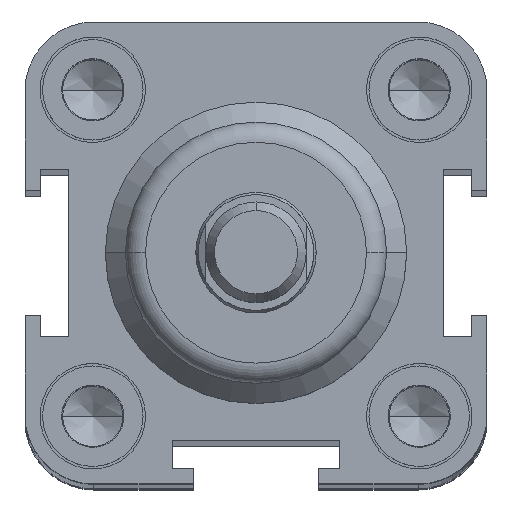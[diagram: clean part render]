
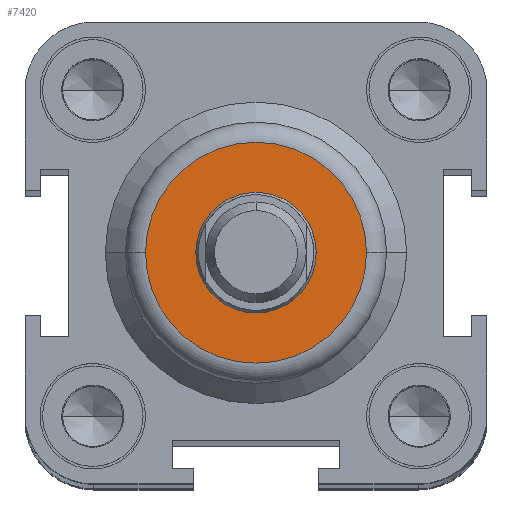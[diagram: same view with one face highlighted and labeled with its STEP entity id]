
A CAD part, top view. The second image highlights one B-rep face of the part: STEP entity #7420.
In plain terms, the highlighted planar face has unit normal (0, 0, 1).
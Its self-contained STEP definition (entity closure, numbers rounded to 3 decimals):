
#1472=CARTESIAN_POINT('',(-11.,0.0,188.0));
#1473=VERTEX_POINT('',#1472);
#1481=CARTESIAN_POINT('',(11.,0.,188.0));
#1482=VERTEX_POINT('',#1481);
#1483=CARTESIAN_POINT('',(0.0,0.0,188.0));
#1484=DIRECTION('',(0.0,0.0,-1.0));
#1485=DIRECTION('',(-1.0,0.0,0.0));
#1486=AXIS2_PLACEMENT_3D('',#1483,#1484,#1485);
#1487=CIRCLE('',#1486,11.);
#1488=EDGE_CURVE('',#1473,#1482,#1487,.T.);
#1593=CARTESIAN_POINT('',(6.,0.0,188.0));
#1594=VERTEX_POINT('',#1593);
#1610=CARTESIAN_POINT('',(-6.,0.,188.0));
#1611=VERTEX_POINT('',#1610);
#1618=CARTESIAN_POINT('',(0.0,0.0,188.0));
#1619=DIRECTION('',(0.0,0.0,-1.0));
#1620=DIRECTION('',(1.0,0.0,0.0));
#1621=AXIS2_PLACEMENT_3D('',#1618,#1619,#1620);
#1622=CIRCLE('',#1621,6.);
#1623=EDGE_CURVE('',#1594,#1611,#1622,.T.);
#7347=CARTESIAN_POINT('',(0.0,0.0,188.0));
#7348=DIRECTION('',(0.0,0.0,-1.0));
#7349=DIRECTION('',(1.0,0.0,0.0));
#7350=AXIS2_PLACEMENT_3D('',#7347,#7348,#7349);
#7351=CIRCLE('',#7350,6.);
#7352=EDGE_CURVE('',#1611,#1594,#7351,.T.);
#7401=CARTESIAN_POINT('',(-5.5,0.0,188.0));
#7402=DIRECTION('',(0.0,0.0,1.0));
#7403=DIRECTION('',(1.0,0.0,0.0));
#7404=AXIS2_PLACEMENT_3D('',#7401,#7402,#7403);
#7405=PLANE('',#7404);
#7406=ORIENTED_EDGE('',*,*,#1488,.F.);
#7407=CARTESIAN_POINT('',(0.0,0.0,188.0));
#7408=DIRECTION('',(0.0,0.0,-1.0));
#7409=DIRECTION('',(-1.0,0.0,0.0));
#7410=AXIS2_PLACEMENT_3D('',#7407,#7408,#7409);
#7411=CIRCLE('',#7410,11.);
#7412=EDGE_CURVE('',#1482,#1473,#7411,.T.);
#7413=ORIENTED_EDGE('',*,*,#7412,.F.);
#7414=EDGE_LOOP('',(#7406,#7413));
#7415=FACE_OUTER_BOUND('',#7414,.T.);
#7416=ORIENTED_EDGE('',*,*,#1623,.T.);
#7417=ORIENTED_EDGE('',*,*,#7352,.T.);
#7418=EDGE_LOOP('',(#7416,#7417));
#7419=FACE_BOUND('',#7418,.T.);
#7420=ADVANCED_FACE('',(#7415,#7419),#7405,.T.);
